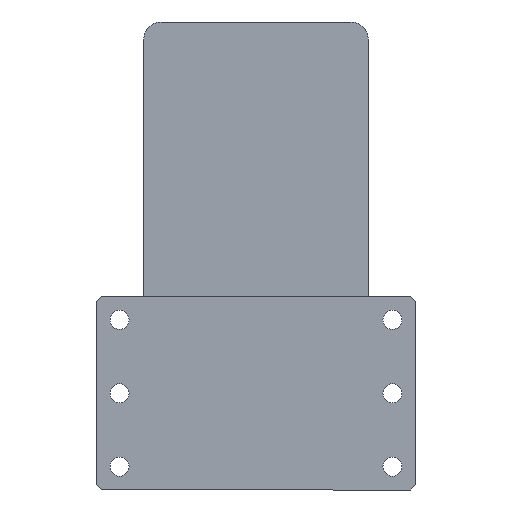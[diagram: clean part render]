
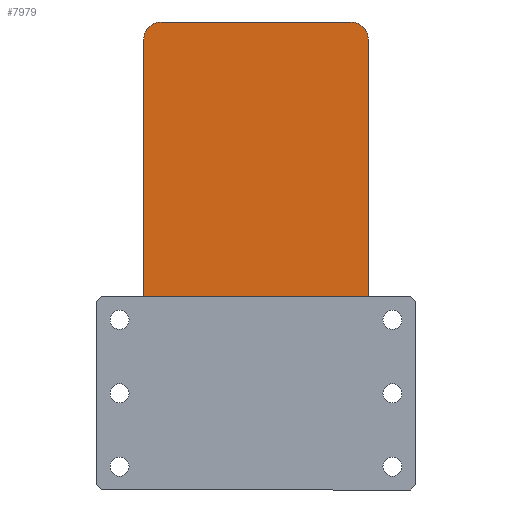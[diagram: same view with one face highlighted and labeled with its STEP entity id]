
A CAD part, left-side view. The second image highlights one B-rep face of the part: STEP entity #7979.
In plain terms, the highlighted planar face has unit normal (-1, 0, 0) as drawn and (0, 0, 1) by its records, which use the part's own axes.
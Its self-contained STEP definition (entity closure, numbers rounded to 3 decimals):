
#178 = AXIS2_PLACEMENT_3D ( 'NONE', #4974, #4918, #4914 ) ;
#343 = VERTEX_POINT ( 'NONE', #8658 ) ;
#394 = DIRECTION ( 'NONE',  ( 1., 0., 0. ) ) ;
#546 = CARTESIAN_POINT ( 'NONE',  ( -65., -135., 105. ) ) ;
#698 = DIRECTION ( 'NONE',  ( 0., 1., 0. ) ) ;
#811 = CARTESIAN_POINT ( 'NONE',  ( 65., 125., 105. ) ) ;
#903 = CARTESIAN_POINT ( 'NONE',  ( 65., 135., 105. ) ) ;
#994 = DIRECTION ( 'NONE',  ( 0., -1., 0. ) ) ;
#1040 = CARTESIAN_POINT ( 'NONE',  ( -65., 135., 105. ) ) ;
#1550 = VERTEX_POINT ( 'NONE', #811 ) ;
#1674 = VERTEX_POINT ( 'NONE', #7055 ) ;
#1796 = VERTEX_POINT ( 'NONE', #7958 ) ;
#1869 = VERTEX_POINT ( 'NONE', #7456 ) ;
#2032 = FACE_OUTER_BOUND ( 'NONE', #6633, .T. ) ;
#3143 = CIRCLE ( 'NONE', #7402, 10. ) ;
#3679 = VECTOR ( 'NONE', #9916, 1000. ) ;
#3714 = LINE ( 'NONE', #9962, #3679 ) ;
#4437 = CARTESIAN_POINT ( 'NONE',  ( 55., -135., 105. ) ) ;
#4761 = CARTESIAN_POINT ( 'NONE',  ( -55., -135., 105. ) ) ;
#4833 = CIRCLE ( 'NONE', #6743, 10. ) ;
#4914 = DIRECTION ( 'NONE',  ( 1., 0., 0. ) ) ;
#4918 = DIRECTION ( 'NONE',  ( 0., 0., 1. ) ) ;
#4935 = PLANE ( 'NONE',  #178 ) ;
#4974 = CARTESIAN_POINT ( 'NONE',  ( 0., 0., 105. ) ) ;
#5545 = VECTOR ( 'NONE', #698, 1000. ) ;
#5585 = LINE ( 'NONE', #903, #5545 ) ;
#5768 = EDGE_CURVE ( 'NONE', #6671, #1869, #9264, .T. ) ;
#6378 = AXIS2_PLACEMENT_3D ( 'NONE', #10900, #10892, #10883 ) ;
#6633 = EDGE_LOOP ( 'NONE', ( #10329, #9908, #9829, #9621, #7989, #10691, #10809, #10740 ) ) ;
#6671 = VERTEX_POINT ( 'NONE', #4437 ) ;
#6743 = AXIS2_PLACEMENT_3D ( 'NONE', #10268, #10091, #10081 ) ;
#7014 = EDGE_CURVE ( 'NONE', #1869, #1550, #5585, .T. ) ;
#7055 = CARTESIAN_POINT ( 'NONE',  ( -65., 125., 105. ) ) ;
#7402 = AXIS2_PLACEMENT_3D ( 'NONE', #9846, #9875, #9721 ) ;
#7456 = CARTESIAN_POINT ( 'NONE',  ( 65., -125., 105. ) ) ;
#7505 = EDGE_CURVE ( 'NONE', #1796, #10623, #3714, .T. ) ;
#7958 = CARTESIAN_POINT ( 'NONE',  ( 55., 135., 105. ) ) ;
#7979 = ADVANCED_FACE ( 'NONE', ( #2032 ), #4935, .T. ) ;
#7989 = ORIENTED_EDGE ( 'NONE', *, *, #7505, .T. ) ;
#8000 = VERTEX_POINT ( 'NONE', #4761 ) ;
#8089 = VECTOR ( 'NONE', #394, 1000. ) ;
#8490 = AXIS2_PLACEMENT_3D ( 'NONE', #9245, #9172, #9226 ) ;
#8658 = CARTESIAN_POINT ( 'NONE',  ( -65., -125., 105. ) ) ;
#8755 = LINE ( 'NONE', #546, #8089 ) ;
#8826 = VECTOR ( 'NONE', #994, 1000. ) ;
#9033 = EDGE_CURVE ( 'NONE', #1674, #343, #9359, .T. ) ;
#9172 = DIRECTION ( 'NONE',  ( 0., 0., 1. ) ) ;
#9226 = DIRECTION ( 'NONE',  ( 1., 0., 0. ) ) ;
#9245 = CARTESIAN_POINT ( 'NONE',  ( -55., -125., 105. ) ) ;
#9261 = CARTESIAN_POINT ( 'NONE',  ( -55., 135., 105. ) ) ;
#9264 = CIRCLE ( 'NONE', #6378, 10. ) ;
#9359 = LINE ( 'NONE', #1040, #8826 ) ;
#9621 = ORIENTED_EDGE ( 'NONE', *, *, #9994, .T. ) ;
#9721 = DIRECTION ( 'NONE',  ( 1., 0., 0. ) ) ;
#9829 = ORIENTED_EDGE ( 'NONE', *, *, #7014, .T. ) ;
#9846 = CARTESIAN_POINT ( 'NONE',  ( -55., 125., 105. ) ) ;
#9875 = DIRECTION ( 'NONE',  ( 0., 0., 1. ) ) ;
#9908 = ORIENTED_EDGE ( 'NONE', *, *, #5768, .T. ) ;
#9916 = DIRECTION ( 'NONE',  ( -1., 0., 0. ) ) ;
#9958 = EDGE_CURVE ( 'NONE', #8000, #6671, #8755, .T. ) ;
#9962 = CARTESIAN_POINT ( 'NONE',  ( -65., 135., 105. ) ) ;
#9994 = EDGE_CURVE ( 'NONE', #1550, #1796, #4833, .T. ) ;
#9996 = EDGE_CURVE ( 'NONE', #10623, #1674, #3143, .T. ) ;
#10030 = EDGE_CURVE ( 'NONE', #343, #8000, #11162, .T. ) ;
#10081 = DIRECTION ( 'NONE',  ( 1., 0., 0. ) ) ;
#10091 = DIRECTION ( 'NONE',  ( 0., 0., 1. ) ) ;
#10268 = CARTESIAN_POINT ( 'NONE',  ( 55., 125., 105. ) ) ;
#10329 = ORIENTED_EDGE ( 'NONE', *, *, #9958, .T. ) ;
#10623 = VERTEX_POINT ( 'NONE', #9261 ) ;
#10691 = ORIENTED_EDGE ( 'NONE', *, *, #9996, .T. ) ;
#10740 = ORIENTED_EDGE ( 'NONE', *, *, #10030, .T. ) ;
#10809 = ORIENTED_EDGE ( 'NONE', *, *, #9033, .T. ) ;
#10883 = DIRECTION ( 'NONE',  ( 1., 0., 0. ) ) ;
#10892 = DIRECTION ( 'NONE',  ( 0., 0., 1. ) ) ;
#10900 = CARTESIAN_POINT ( 'NONE',  ( 55., -125., 105. ) ) ;
#11162 = CIRCLE ( 'NONE', #8490, 10. ) ;
